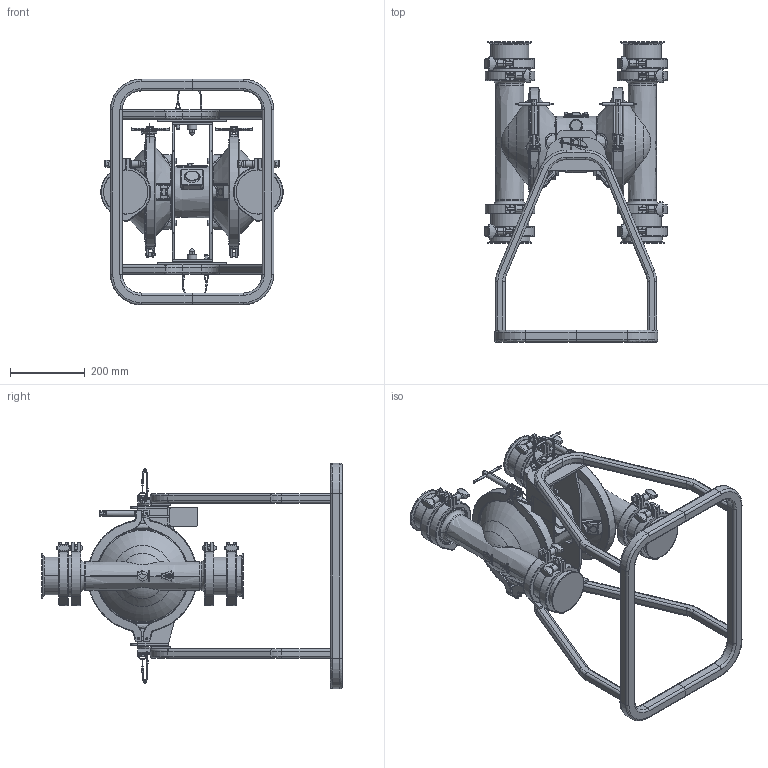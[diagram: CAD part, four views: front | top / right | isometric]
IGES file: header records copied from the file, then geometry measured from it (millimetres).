
Start section:  PTC IGES file: sfpaf1-en-l.igs
Global section: file name: sfpaf1-en-l.igs; native system: Creo Parametric by PTC Inc.; preprocessor: 2019030; author: qusrh3; organization: Unknown; date: 20200101.121933; units: inch
Bounding box: 488.77 x 805.69 x 605.28 mm (x, y, z)
Surface area: 2038632.9 mm2 (no closed solid volume)
Topology: 0 solids, 0 shells, 2392 faces, 11772 edges, 11760 vertices
Faces by surface type: revolution 1467, bspline 925
